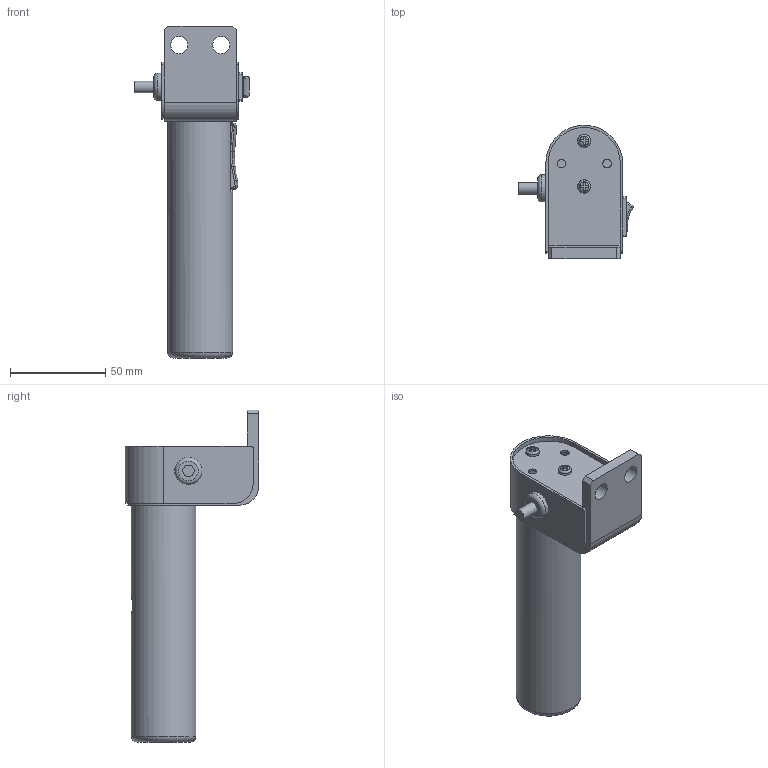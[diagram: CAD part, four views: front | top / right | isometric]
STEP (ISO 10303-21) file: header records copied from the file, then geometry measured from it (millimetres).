
FILE_DESCRIPTION (( 'STEP AP214' ), '1' );
FILE_NAME ('ENRH-SH02.STEP', '2015-03-19T08:53:15', ( '' ), ( '' ), 'SwSTEP 2.0', 'SolidWorks 2012', '' );
FILE_SCHEMA (( 'AUTOMOTIVE_DESIGN' ));
Length unit declared in the file: millimetre
Products named in the file (1): ENRH-SH02
Bounding box: 60.18 x 70.2 x 174.5 mm (x, y, z)
Volume: 148322.6 mm3; surface area: 37128 mm2
Topology: 1 solids, 1 shells, 238 faces, 601 edges, 381 vertices
Faces by surface type: plane 149, cylinder 55, torus 11, bspline 10, cone 9, sphere 4
Full cylindrical faces by diameter (mm): 4.5 x6, 5 x1, 6 x1, 7 x4, 8 x1, 9 x2, 14.3 x1, 18 x1, 34 x1
Entity records: 9895 total; most frequent: CARTESIAN_POINT 1843, DIRECTION 1122, ORIENTED_EDGE 1104, EDGE_CURVE 552, AXIS2_PLACEMENT_3D 407, VERTEX_POINT 363, VECTOR 308, LINE 308
